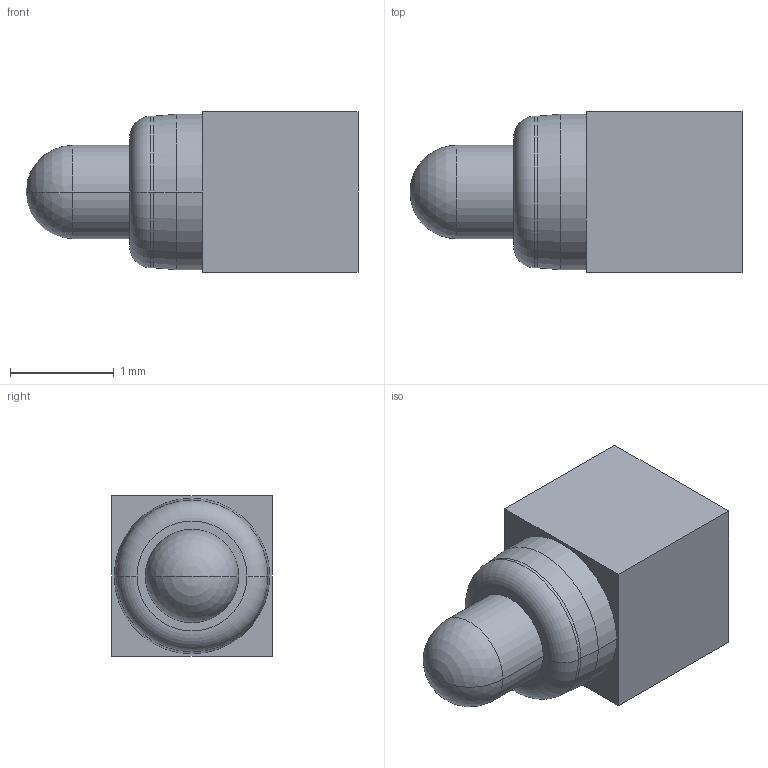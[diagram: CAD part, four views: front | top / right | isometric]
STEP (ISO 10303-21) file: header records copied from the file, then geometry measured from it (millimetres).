
FILE_DESCRIPTION((''),'2;1');
FILE_NAME('NC2959','2022-05-24T20:13:06',('Administrator'),(''),'CREO PARAMETRIC BY PTC INC, 2018400','CREO PARAMETRIC BY PTC INC, 2018400','');
FILE_SCHEMA(('CONFIG_CONTROL_DESIGN'));
Length unit declared in the file: millimetre
Products named in the file (1): NC2959
Bounding box: 3.2 x 1.55 x 1.55 mm (x, y, z)
Volume: 5.3 mm3; surface area: 19.1 mm2
Topology: 1 solids, 1 shells, 19 faces, 40 edges, 23 vertices
Faces by surface type: plane 7, cylinder 6, cone 2, torus 2, sphere 2
Entity records: 532 total; most frequent: DIRECTION 94, CARTESIAN_POINT 80, ORIENTED_EDGE 76, EDGE_CURVE 38, AXIS2_PLACEMENT_3D 37, VERTEX_POINT 23, EDGE_LOOP 21, VECTOR 20
